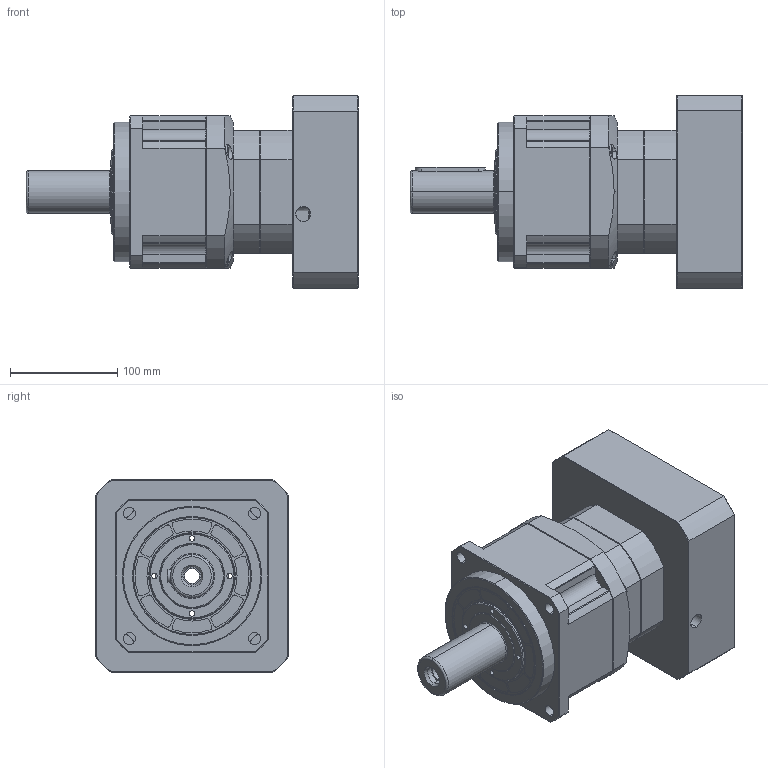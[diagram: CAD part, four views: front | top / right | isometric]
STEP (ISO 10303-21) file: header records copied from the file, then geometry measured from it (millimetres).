
FILE_DESCRIPTION (( 'STEP AP203' ), '1' );
FILE_NAME ('KB142-10X5-114.3-35-80-M12-200分体式.STEP', '2020-08-12T01:17:04', ( '微软用户' ), ( '微软中国' ), 'SwSTEP 2.0', 'SolidWorks 2008', '' );
FILE_SCHEMA (( 'CONFIG_CONTROL_DESIGN' ));
Length unit declared in the file: millimetre
Products named in the file (1): KB142-10X5-114.3-35-80-M12-200煦极宒
Bounding box: 309.8 x 180 x 180 mm (x, y, z)
Surface area: 274696.7 mm2 (no closed solid volume)
Topology: 0 solids, 34 shells, 538 faces, 1604 edges, 1067 vertices
Faces by surface type: plane 209, cylinder 204, cone 95, torus 30
Entity records: 18779 total; most frequent: CARTESIAN_POINT 4288, DIRECTION 3193, ORIENTED_EDGE 2664, EDGE_CURVE 1588, AXIS2_PLACEMENT_3D 1215, VERTEX_POINT 1067, LINE 763, VECTOR 763
